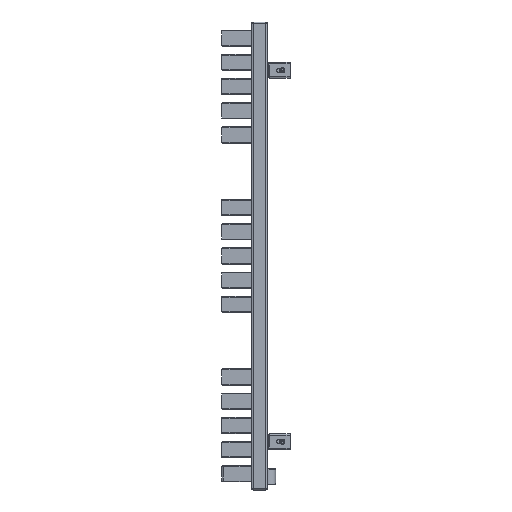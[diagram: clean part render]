
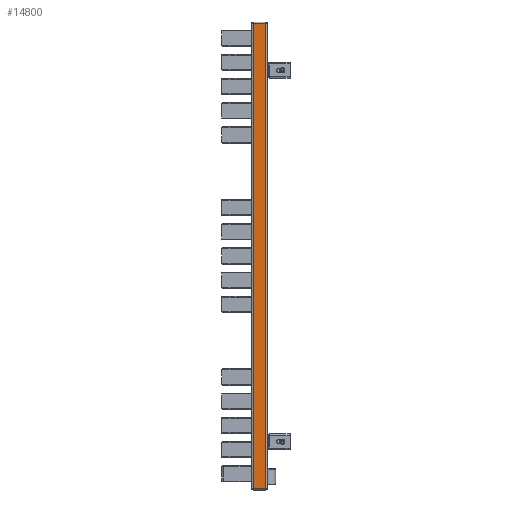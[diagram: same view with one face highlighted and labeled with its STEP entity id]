
A CAD part, left-side view. The second image highlights one B-rep face of the part: STEP entity #14800.
In plain terms, the highlighted planar face has unit normal (-1, 0, 0).
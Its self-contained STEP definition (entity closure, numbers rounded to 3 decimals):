
#14634=CARTESIAN_POINT('',(-225.0,-12.,867.0));
#14635=VERTEX_POINT('',#14634);
#14644=CARTESIAN_POINT('',(-225.0,12.,867.0));
#14645=VERTEX_POINT('',#14644);
#14653=CARTESIAN_POINT('',(-225.0,12.,867.0));
#14654=DIRECTION('',(0.0,-1.0,0.0));
#14655=VECTOR('',#14654,24.);
#14656=LINE('',#14653,#14655);
#14657=EDGE_CURVE('',#14645,#14635,#14656,.T.);
#14758=CARTESIAN_POINT('',(-225.0,-12.,3.0));
#14759=VERTEX_POINT('',#14758);
#14760=CARTESIAN_POINT('',(-225.0,-12.,3.0));
#14761=DIRECTION('',(0.0,0.0,1.0));
#14762=VECTOR('',#14761,864.0);
#14763=LINE('',#14760,#14762);
#14764=EDGE_CURVE('',#14759,#14635,#14763,.T.);
#14777=CARTESIAN_POINT('',(-225.0,-12.,0.0));
#14778=DIRECTION('',(-1.0,0.0,0.0));
#14779=DIRECTION('',(0.0,0.0,1.0));
#14780=AXIS2_PLACEMENT_3D('',#14777,#14778,#14779);
#14781=PLANE('',#14780);
#14782=ORIENTED_EDGE('',*,*,#14657,.F.);
#14783=CARTESIAN_POINT('',(-225.0,12.,3.0));
#14784=VERTEX_POINT('',#14783);
#14785=CARTESIAN_POINT('',(-225.0,12.,3.0));
#14786=DIRECTION('',(0.0,0.0,1.0));
#14787=VECTOR('',#14786,864.0);
#14788=LINE('',#14785,#14787);
#14789=EDGE_CURVE('',#14784,#14645,#14788,.T.);
#14790=ORIENTED_EDGE('',*,*,#14789,.F.);
#14791=CARTESIAN_POINT('',(-225.0,-12.,3.0));
#14792=DIRECTION('',(0.0,1.0,0.0));
#14793=VECTOR('',#14792,24.);
#14794=LINE('',#14791,#14793);
#14795=EDGE_CURVE('',#14759,#14784,#14794,.T.);
#14796=ORIENTED_EDGE('',*,*,#14795,.F.);
#14797=ORIENTED_EDGE('',*,*,#14764,.T.);
#14798=EDGE_LOOP('',(#14782,#14790,#14796,#14797));
#14799=FACE_OUTER_BOUND('',#14798,.T.);
#14800=ADVANCED_FACE('',(#14799),#14781,.T.);
